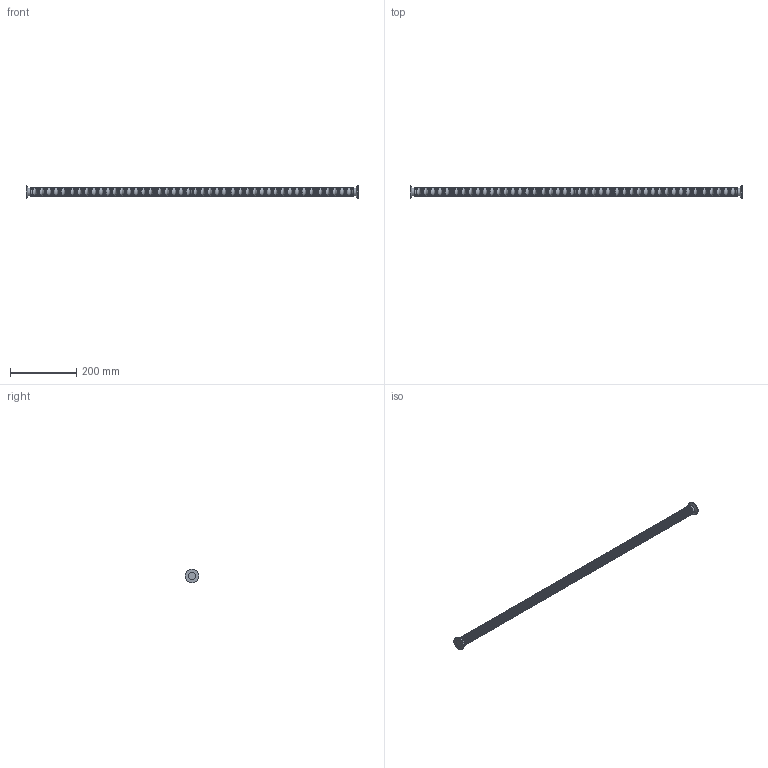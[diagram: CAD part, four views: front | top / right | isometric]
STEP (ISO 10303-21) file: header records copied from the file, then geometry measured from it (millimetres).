
FILE_DESCRIPTION( ( 'Unknown' ), '1' );
FILE_NAME( 'X:/Daten ( aktueller Bestand )/Projekte und Zeichnungen/Solid Edge/6 Verbindungsbauteile/Edelstahlschlauch/1923.stp', 'Unknown', ( 'Unknown' ), ( 'Unknown' ), 'XStep 1.0', 'Unknown', ' ' );
FILE_SCHEMA( ( 'automotive_design' ) );
Length unit declared in the file: millimetre
Products named in the file (1): 1
Bounding box: 1000 x 40 x 40 mm (x, y, z)
Volume: 530053.5 mm3; surface area: 111617.6 mm2
Topology: 1 solids, 1 shells, 574 faces, 1141 edges, 573 vertices
Faces by surface type: cylinder 286, torus 280, plane 6, cone 2
Full cylindrical faces by diameter (mm): 22.2 x2, 24 x2, 25 x278, 26.2 x2, 40 x2
Entity records: 16082 total; most frequent: DIRECTION 2296, CARTESIAN_POINT 1721, AXIS2_PLACEMENT_3D 1148, EDGE_LOOP 1146, ORIENTED_EDGE 1146, FACE_OUTER_BOUND 1140, STYLED_ITEM 574, PRESENTATION_STYLE_ASSIGNMENT 574
